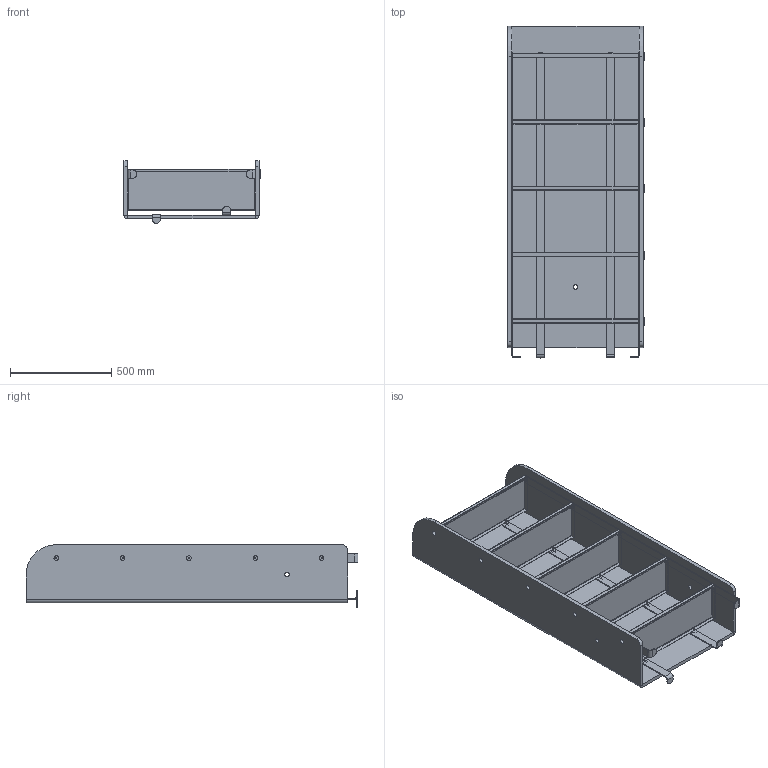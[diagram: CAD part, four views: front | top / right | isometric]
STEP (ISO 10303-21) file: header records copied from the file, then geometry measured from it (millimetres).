
FILE_DESCRIPTION (( 'STEP AP214' ), '1' );
FILE_NAME ('NIK_SHELVE160.STEP', '2021-11-29T08:49:59', ( '' ), ( '' ), 'SwSTEP 2.0', 'SolidWorks 2019', '' );
FILE_SCHEMA (( 'AUTOMOTIVE_DESIGN' ));
Length unit declared in the file: millimetre
Products named in the file (8): Pieza13^NIK_SHELVE160; EDE_BOOK; 160; EDE_SUP_04_03; Pieza15^NIK_SHELVE160; TORNILLOS18; Pieza14^NIK_SHELVE160; NIK_SHELVE160
Assembly tree (15 placements, depth 2):
  Pieza13^NIK_SHELVE160
  Pieza15^NIK_SHELVE160
  Pieza14^NIK_SHELVE160
  NIK_SHELVE160
    160
    EDE_SUP_04_03  x4
    EDE_BOOK  x5
    TORNILLOS18  x5
Bounding box: 672.53 x 1641 x 310.14 mm (x, y, z)
Volume: 36468905.8 mm3; surface area: 6101145.7 mm2
Topology: 15 solids, 15 shells, 952 faces, 2478 edges, 1561 vertices
Faces by surface type: cylinder 574, plane 363, bspline 15
Entity records: 13447 total; most frequent: CARTESIAN_POINT 7116, ORIENTED_EDGE 1326, DIRECTION 1231, EDGE_CURVE 663, AXIS2_PLACEMENT_3D 446, VERTEX_POINT 419, VECTOR 339, LINE 339
